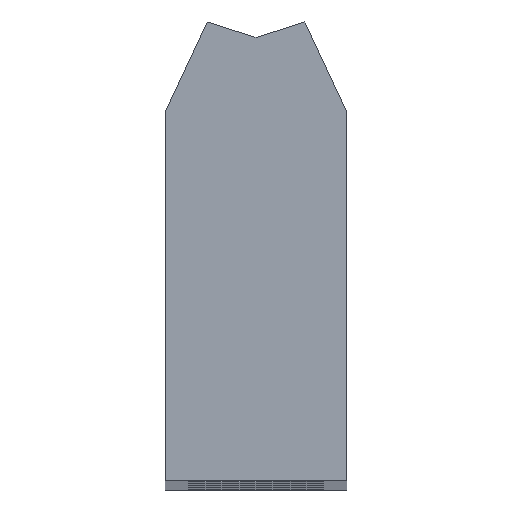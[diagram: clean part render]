
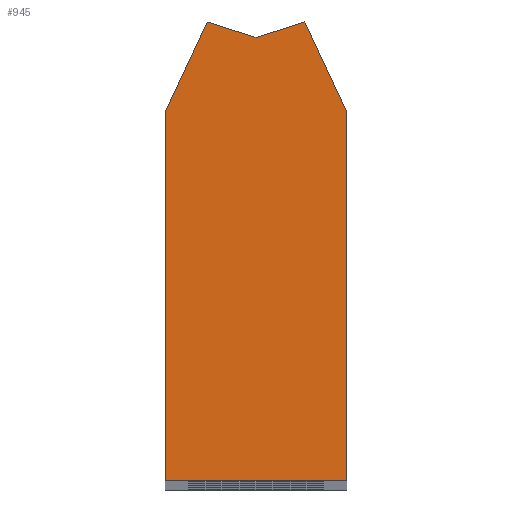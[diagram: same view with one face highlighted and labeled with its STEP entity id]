
A CAD part, top view. The second image highlights one B-rep face of the part: STEP entity #945.
In plain terms, the highlighted planar face has unit normal (0, 0, 1).
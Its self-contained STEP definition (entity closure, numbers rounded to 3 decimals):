
#37 = CARTESIAN_POINT ( 'NONE',  ( 10., 0., 299.75 ) ) ;
#86 = CARTESIAN_POINT ( 'NONE',  ( 10., 40.731, 299.75 ) ) ;
#92 = EDGE_CURVE ( 'NONE', #1312, #1865, #926, .T. ) ;
#138 = CARTESIAN_POINT ( 'NONE',  ( -5.4, 50.596, 299.75 ) ) ;
#183 = VERTEX_POINT ( 'NONE', #320 ) ;
#227 = EDGE_CURVE ( 'NONE', #1865, #1285, #2192, .T. ) ;
#264 = EDGE_LOOP ( 'NONE', ( #1966, #2120, #2295, #1140, #1921, #2008, #2614 ) ) ;
#317 = VERTEX_POINT ( 'NONE', #1595 ) ;
#320 = CARTESIAN_POINT ( 'NONE',  ( -10., 0., 299.75 ) ) ;
#329 = VECTOR ( 'NONE', #2005, 1000. ) ;
#359 = LINE ( 'NONE', #138, #2018 ) ;
#511 = CARTESIAN_POINT ( 'NONE',  ( 0., 48.893, 299.75 ) ) ;
#537 = AXIS2_PLACEMENT_3D ( 'NONE', #2343, #1295, #1100 ) ;
#622 = VECTOR ( 'NONE', #2491, 1000. ) ;
#690 = VECTOR ( 'NONE', #883, 1000. ) ;
#766 = CARTESIAN_POINT ( 'NONE',  ( 10., 0., 299.75 ) ) ;
#791 = DIRECTION ( 'NONE',  ( -0.423, -0.906, 0. ) ) ;
#801 = LINE ( 'NONE', #1648, #822 ) ;
#822 = VECTOR ( 'NONE', #2125, 1000. ) ;
#883 = DIRECTION ( 'NONE',  ( 0., 1., 0. ) ) ;
#926 = LINE ( 'NONE', #2023, #329 ) ;
#945 = ADVANCED_FACE ( 'NONE', ( #1697 ), #1251, .T. ) ;
#1010 = VERTEX_POINT ( 'NONE', #1083 ) ;
#1061 = EDGE_CURVE ( 'NONE', #317, #183, #2703, .T. ) ;
#1083 = CARTESIAN_POINT ( 'NONE',  ( 10., 40.731, 299.75 ) ) ;
#1100 = DIRECTION ( 'NONE',  ( 1., 0., 0. ) ) ;
#1103 = CARTESIAN_POINT ( 'NONE',  ( 5.4, 50.596, 299.75 ) ) ;
#1140 = ORIENTED_EDGE ( 'NONE', *, *, #2351, .T. ) ;
#1251 = PLANE ( 'NONE',  #537 ) ;
#1285 = VERTEX_POINT ( 'NONE', #1748 ) ;
#1295 = DIRECTION ( 'NONE',  ( 0., 0., 1. ) ) ;
#1312 = VERTEX_POINT ( 'NONE', #1103 ) ;
#1481 = EDGE_CURVE ( 'NONE', #1010, #1312, #2247, .T. ) ;
#1526 = DIRECTION ( 'NONE',  ( -0.954, 0.301, 0. ) ) ;
#1588 = DIRECTION ( 'NONE',  ( -0.423, 0.906, 0. ) ) ;
#1595 = CARTESIAN_POINT ( 'NONE',  ( -10., 40.731, 299.75 ) ) ;
#1636 = CARTESIAN_POINT ( 'NONE',  ( -10., 40.731, 299.75 ) ) ;
#1648 = CARTESIAN_POINT ( 'NONE',  ( -10., 0., 299.75 ) ) ;
#1697 = FACE_OUTER_BOUND ( 'NONE', #264, .T. ) ;
#1748 = CARTESIAN_POINT ( 'NONE',  ( -5.4, 50.596, 299.75 ) ) ;
#1847 = EDGE_CURVE ( 'NONE', #2107, #1010, #1932, .T. ) ;
#1865 = VERTEX_POINT ( 'NONE', #2655 ) ;
#1921 = ORIENTED_EDGE ( 'NONE', *, *, #1847, .T. ) ;
#1932 = LINE ( 'NONE', #37, #690 ) ;
#1966 = ORIENTED_EDGE ( 'NONE', *, *, #227, .T. ) ;
#2005 = DIRECTION ( 'NONE',  ( -0.954, -0.301, 0. ) ) ;
#2008 = ORIENTED_EDGE ( 'NONE', *, *, #1481, .T. ) ;
#2018 = VECTOR ( 'NONE', #791, 1000. ) ;
#2023 = CARTESIAN_POINT ( 'NONE',  ( 5.4, 50.596, 299.75 ) ) ;
#2107 = VERTEX_POINT ( 'NONE', #766 ) ;
#2120 = ORIENTED_EDGE ( 'NONE', *, *, #2191, .T. ) ;
#2125 = DIRECTION ( 'NONE',  ( 1., 0., 0. ) ) ;
#2191 = EDGE_CURVE ( 'NONE', #1285, #317, #359, .T. ) ;
#2192 = LINE ( 'NONE', #511, #2497 ) ;
#2247 = LINE ( 'NONE', #86, #2369 ) ;
#2295 = ORIENTED_EDGE ( 'NONE', *, *, #1061, .T. ) ;
#2343 = CARTESIAN_POINT ( 'NONE',  ( 0., 0., 299.75 ) ) ;
#2351 = EDGE_CURVE ( 'NONE', #183, #2107, #801, .T. ) ;
#2369 = VECTOR ( 'NONE', #1588, 1000. ) ;
#2491 = DIRECTION ( 'NONE',  ( 0., -1., 0. ) ) ;
#2497 = VECTOR ( 'NONE', #1526, 1000. ) ;
#2614 = ORIENTED_EDGE ( 'NONE', *, *, #92, .T. ) ;
#2655 = CARTESIAN_POINT ( 'NONE',  ( 0., 48.893, 299.75 ) ) ;
#2703 = LINE ( 'NONE', #1636, #622 ) ;
